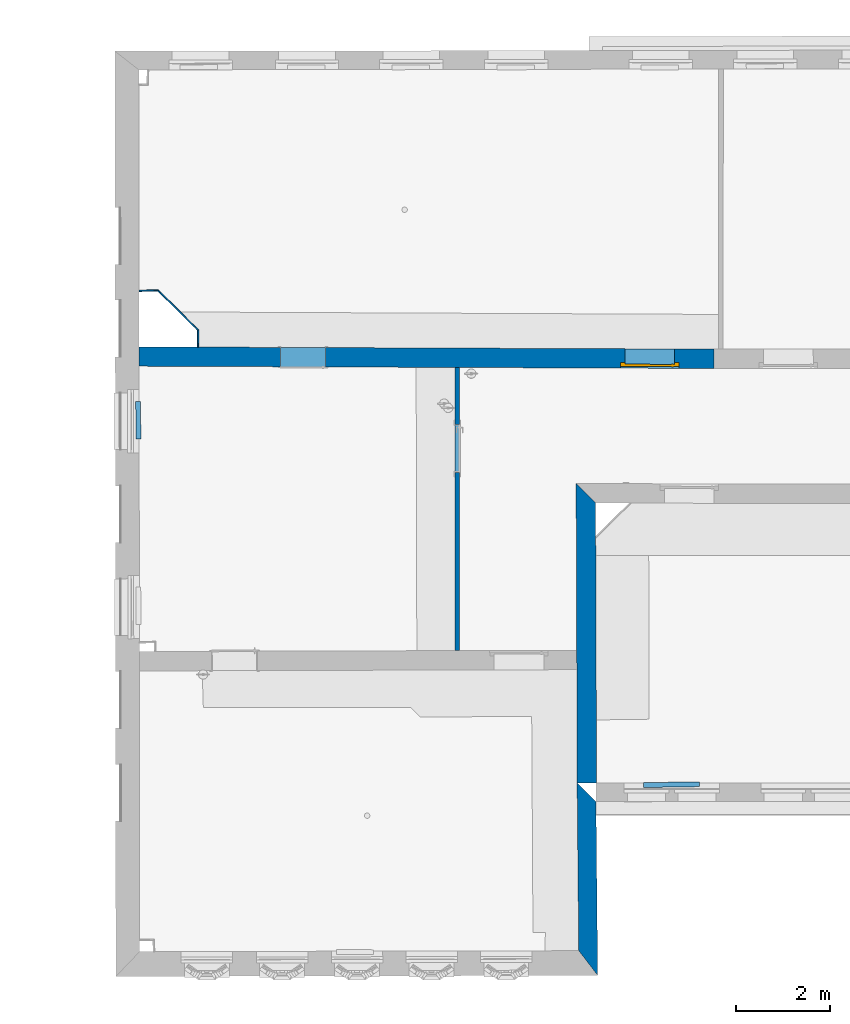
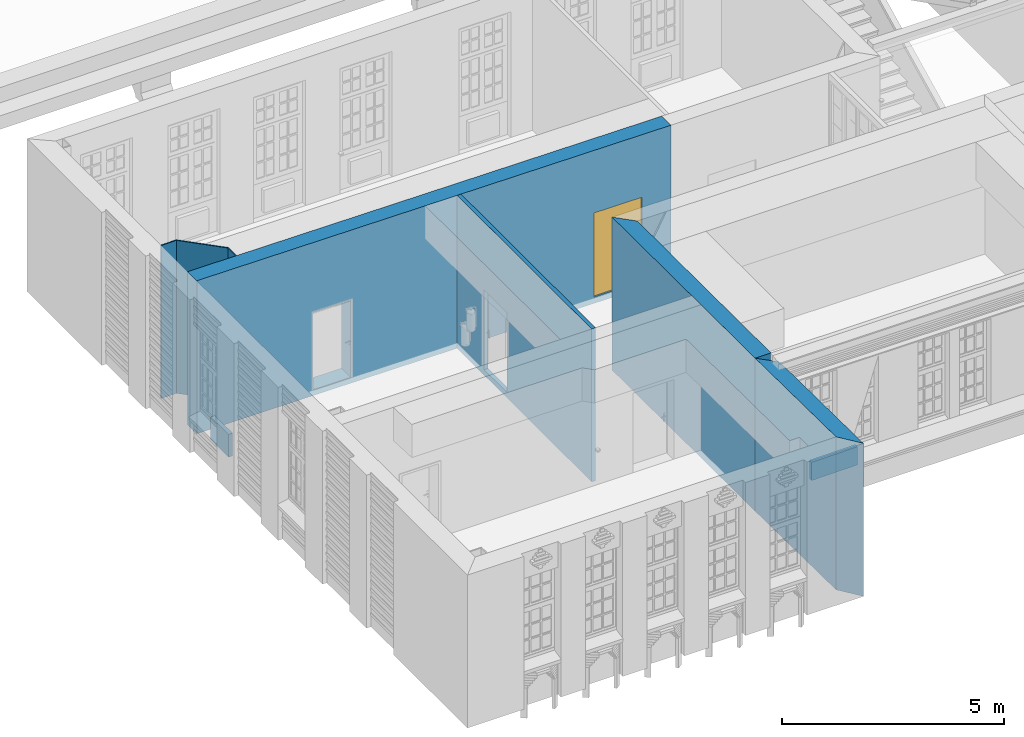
# One storey, part 11 of 90: 9 walls, 1 door, 3 openings.
"""IFC2X3 building model written with IfcOpenShell, lengths in metres."""

from ifc_helpers import new_model, entity, si_unit, converted_unit, derived_unit, money_unit, direction, frame, origin_with_axes, origin_2d_with_axis, place, context, subcontext, project, spatial, polyline, rectangle, outline, extrude, faceted_brep, source, transform, mapped, material, layer, layer_set, layer_usage, type_object, element, fill, save


model = new_model("IFC2X3")

# Units and contexts
model_context = context("Model", 3, precision=1e-05, world=origin_with_axes(), true_north=direction((0.0, 1.0)))
body_context = subcontext(model_context, "Body", "Model", "MODEL_VIEW")
ifc_project = project(units=[si_unit("LENGTHUNIT", "METRE"), si_unit("AREAUNIT", "SQUARE_METRE"), si_unit("VOLUMEUNIT", "CUBIC_METRE"), converted_unit("PLANEANGLEUNIT", "DEGREE", entity("IfcPlaneAngleMeasure", 0.0174532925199), si_unit("PLANEANGLEUNIT", "RADIAN"), dimensions=[0, 0, 0, 0, 0, 0, 0]), money_unit("EUR"), converted_unit("TIMEUNIT", "Year", entity("IfcTimeMeasure", 31556926.0), si_unit("TIMEUNIT", "SECOND"), dimensions=[0, 0, 1, 0, 0, 0, 0]), si_unit("MASSUNIT", "GRAM", prefix="KILO"), si_unit("THERMODYNAMICTEMPERATUREUNIT", "DEGREE_CELSIUS"), si_unit("LUMINOUSINTENSITYUNIT", "LUMEN"), si_unit("ENERGYUNIT", "JOULE", prefix="MEGA"), derived_unit("THERMALCONDUCTANCEUNIT", [(si_unit("POWERUNIT", "WATT"), 1), (si_unit("LENGTHUNIT", "METRE"), -1), (si_unit("THERMODYNAMICTEMPERATUREUNIT", "KELVIN"), -1)]), derived_unit("SPECIFICHEATCAPACITYUNIT", [(si_unit("ENERGYUNIT", "JOULE"), 1), (si_unit("MASSUNIT", "GRAM", prefix="KILO"), -1), (si_unit("THERMODYNAMICTEMPERATUREUNIT", "KELVIN"), -1)]), derived_unit("MASSDENSITYUNIT", [(si_unit("MASSUNIT", "GRAM", prefix="KILO"), 1), (si_unit("VOLUMEUNIT", "CUBIC_METRE"), -1)])], contexts=[model_context])

# Site, building, storey
site_placement = place(None, origin_with_axes())
site = spatial("IfcSite", under=ifc_project, at=site_placement, Name="Gelände", CompositionType="ELEMENT")
building_placement = place(site_placement, origin_with_axes())
building = spatial("IfcBuilding", under=site, at=building_placement, Name="Gebäude", CompositionType="ELEMENT")
storey_placement = place(building_placement, frame((0.0, 0.0, 3.7), z_axis=(0.0, 0.0, 1.0), x_axis=(1.0, 0.0, 0.0)))
storey = spatial("IfcBuildingStorey", under=building, at=storey_placement, Name="1.OBERGESCHOSS", CompositionType="ELEMENT", Elevation=3.7)

# Walls
ifc_material_1 = material(Name="05_ALLGEMEIN - TRAGENDE BAUTEILE")
ifc_layer_1 = layer(ifc_material_1, 0.4, ventilated="UNKNOWN")
ifc_layer_set_1 = layer_set([ifc_layer_1], Name="05_ALLGEMEIN - TRAGENDE BAUTEILE 0.4")
ifc_layer_usage_1 = layer_usage(ifc_layer_set_1, "AXIS2", "NEGATIVE", 0.4)
wall_type_1 = type_object("IfcWallType", Name="05_ALLGEMEIN - TRAGENDE BAUTEILE 400", PredefinedType="ELEMENTEDWALL")
wall_1_placement = place(storey_placement, frame((-17.7552910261, 6.28208154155, -0.1), z_axis=(0.0, 0.0, 1.0), x_axis=(-0.00971979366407, 0.99995276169, 0.0)))
element("IfcWallStandardCase", 1, at=wall_1_placement, inside=storey, type_object=wall_type_1, material=ifc_layer_usage_1, Name="Wand-029", ObjectType="ELEMENTEDWALL", context=body_context, shape_type="SweptSolid", body=[
    extrude(outline(polyline([(0.0, 0.0), (3.71206663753, 0.0), (4.11594323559, 0.4), (0.533052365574, 0.4), (0.0, 0.0)])), origin_with_axes(), (0.0, 0.0, 1.0), 4.2),
])
ifc_material_2 = material(Name="43_Gipskarton")
ifc_layer_2 = layer(ifc_material_2, 0.03, ventilated="UNKNOWN")
ifc_layer_set_2 = layer_set([ifc_layer_2], Name="43_Gipskarton 0.03")
ifc_layer_usage_2 = layer_usage(ifc_layer_set_2, "AXIS2", "NEGATIVE", 0.03)
wall_type_2 = type_object("IfcWallType", Name="43_Gipskarton 30", PredefinedType="ELEMENTEDWALL")
wall_2_placement = place(storey_placement, frame((-26.2841392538, 19.2929621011, -0.1), z_axis=(0.0, 0.0, 1.0), x_axis=(0.0115664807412, 0.999933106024, 0.0)))
element("IfcWallStandardCase", 2, at=wall_2_placement, inside=storey, type_object=wall_type_2, material=ifc_layer_usage_2, Name="Wand-041", ObjectType="ELEMENTEDWALL", context=body_context, shape_type="SweptSolid", body=[
    extrude(outline(polyline([(0.414627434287, 0.0), (0.781797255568, 0.0), (0.76904047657, 0.03), (0.414400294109, 0.03), (0.414627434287, 0.0)])), origin_with_axes(), (0.0, 0.0, 1.0), 4.2),
])
ifc_layer_usage_3 = layer_usage(ifc_layer_set_2, "AXIS2", "NEGATIVE", 0.03)
wall_3_placement = place(storey_placement, frame((-26.2750966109, 20.0747070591, -0.1), z_axis=(0.0, 0.0, 1.0), x_axis=(-0.712150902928, 0.70202641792, 0.0)))
element("IfcWallStandardCase", 3, at=wall_3_placement, inside=storey, type_object=wall_type_2, material=ifc_layer_usage_3, Name="Wand-042", ObjectType="ELEMENTEDWALL", context=body_context, shape_type="SweptSolid", body=[
    extrude(outline(polyline([(0.0, 0.0), (1.22084473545, 0.0), (1.20815643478, 0.03), (0.0127567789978, 0.03), (0.0, 0.0)])), origin_with_axes(), (0.0, 0.0, 1.0), 4.2),
])
ifc_layer_usage_4 = layer_usage(ifc_layer_set_2, "AXIS2", "NEGATIVE", 0.03)
wall_4_placement = place(storey_placement, frame((-27.1445222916, 20.9317723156, -0.1), z_axis=(0.0, 0.0, 1.0), x_axis=(-0.999757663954, -0.0220139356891, 0.0)))
element("IfcWallStandardCase", 4, at=wall_4_placement, inside=storey, type_object=wall_type_2, material=ifc_layer_usage_4, Name="Wand-043", ObjectType="ELEMENTEDWALL", context=body_context, shape_type="SweptSolid", body=[
    extrude(outline(polyline([(0.0, 0.0), (0.409529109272, 0.0), (0.410161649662, 0.03), (0.0126883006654, 0.03), (0.0, 0.0)])), origin_with_axes(), (0.0, 0.0, 1.0), 4.2),
])
ifc_material_3 = material(Name="01_ALLGEMEIN - BAUTEIL")
ifc_layer_3 = layer(ifc_material_3, 0.105, ventilated="UNKNOWN")
ifc_layer_set_3 = layer_set([ifc_layer_3], Name="01_ALLGEMEIN - BAUTEIL 0.105")
ifc_layer_usage_5 = layer_usage(ifc_layer_set_3, "AXIS2", "NEGATIVE", 0.105)
wall_type_3 = type_object("IfcWallType", Name="01_ALLGEMEIN - BAUTEIL 105", PredefinedType="ELEMENTEDWALL")
wall_5_placement = place(storey_placement, frame((-27.5158140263, 17.7450611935, 0.222143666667), z_axis=(0.0, 0.0, 1.0), x_axis=(-0.00559368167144, 0.99998435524, 0.0)))
element("IfcWallStandardCase", 5, at=wall_5_placement, inside=storey, type_object=wall_type_3, material=ifc_layer_usage_5, Name="Wand-035", ObjectType="ELEMENTEDWALL", context=body_context, shape_type="SweptSolid", body=[
    extrude(outline(polyline([(0.0, 0.0), (0.798963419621, 0.0), (0.798963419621, 0.105), (0.0, 0.105), (0.0, 0.0)])), origin_with_axes(), (0.0, 0.0, 1.0), 0.626381),
])
ifc_layer_usage_6 = layer_usage(ifc_layer_set_3, "AXIS2", "NEGATIVE", 0.0)
wall_6_placement = place(storey_placement, frame((-16.7819560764, 10.4016791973, 0.300904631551), z_axis=(0.0, 0.0, 1.0), x_axis=(0.999879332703, 0.0155344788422, 0.0)))
element("IfcWallStandardCase", 6, at=wall_6_placement, inside=storey, type_object=wall_type_3, material=ifc_layer_usage_6, Name="Wand-037", ObjectType="ELEMENTEDWALL", context=body_context, shape_type="SweptSolid", body=[
    extrude(outline(polyline([(0.0, -0.105), (1.1980319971, -0.105), (1.1980319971, 0.0), (0.0, 0.0), (0.0, -0.105)])), origin_with_axes(), (0.0, 0.0, 1.0), 0.501014),
])

# Wall, opening
ifc_layer_4 = layer(ifc_material_2, 0.1, ventilated="UNKNOWN")
ifc_layer_set_4 = layer_set([ifc_layer_4], Name="43_Gipskarton 0.1")
ifc_layer_usage_7 = layer_usage(ifc_layer_set_4, "AXIS2", "NEGATIVE", 0.0)
wall_type_4 = type_object("IfcWallType", Name="43_Gipskarton 100", PredefinedType="ELEMENTEDWALL")
wall_7_placement = place(storey_placement, frame((-20.7053908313, 19.2706718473, -0.1), z_axis=(0.0, 0.0, 1.0), x_axis=(-0.000167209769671, -0.99999998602, 0.0)))
wall_7 = element("IfcWallStandardCase", 7, at=wall_7_placement, inside=storey, type_object=wall_type_4, material=ifc_layer_usage_7, Name="Wand-039", ObjectType="ELEMENTEDWALL", context=body_context, shape_type="SweptSolid", body=[
    extrude(outline(polyline([(-0.000382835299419, -0.1), (6.04848915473, -0.1), (6.04818742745, 0.0), (0.0, 0.0), (-0.000382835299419, -0.1)])), origin_with_axes(), (0.0, 0.0, 1.0), 4.2),
])
opening_1_placement = place(wall_7_placement, frame((1.72813684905, 0.0, 0.15), z_axis=(0.0, 0.0, 1.0), x_axis=(1.0, 0.0, 0.0)))
element("IfcOpeningElement", 8, at=opening_1_placement, cuts=wall_7, Name="Tür-022", context=body_context, shape_type="SweptSolid", body=[
    extrude(rectangle(XDim=1.02646512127, YDim=2.188924, at=origin_2d_with_axis()), frame((0.0, -0.1, 1.094462), z_axis=(0.0, 1.0, 0.0), x_axis=(1.0, 0.0, 0.0)), (0.0, 0.0, 1.0), 0.3),
])

# Wall, openings, door
ifc_layer_5 = layer(ifc_material_1, 0.414615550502, ventilated="UNKNOWN")
ifc_layer_set_5 = layer_set([ifc_layer_5], Name="05_ALLGEMEIN - TRAGENDE BAUTEILE 0.414616")
ifc_layer_usage_8 = layer_usage(ifc_layer_set_5, "AXIS2", "NEGATIVE", 0.0)
wall_type_5 = type_object("IfcWallType", Name="05_ALLGEMEIN - TRAGENDE BAUTEILE 415", PredefinedType="ELEMENTEDWALL")
wall_8_placement = place(storey_placement, frame((-15.2663107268, 19.2489396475, -0.1), z_axis=(0.0, 0.0, 1.0), x_axis=(-0.999992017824, 0.00399553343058, 0.0)))
wall_8 = element("IfcWallStandardCase", 9, at=wall_8_placement, inside=storey, type_object=wall_type_5, material=ifc_layer_usage_8, Name="Wand-038", ObjectType="ELEMENTEDWALL", context=body_context, shape_type="SweptSolid", body=[
    extrude(outline(polyline([(0.000893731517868, -0.414615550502), (12.2882656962, -0.414615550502), (12.2862217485, 0.0), (0.0, 0.0), (0.000893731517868, -0.414615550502)])), origin_with_axes(), (0.0, 0.0, 1.0), 4.2),
])
opening_2_placement = place(wall_8_placement, frame((1.37800288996, 0.0, 0.177598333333), z_axis=(0.0, 0.0, 1.0), x_axis=(1.0, 0.0, 0.0)))
opening_2 = element("IfcOpeningElement", 10, at=opening_2_placement, cuts=wall_8, Name="Tür-022", context=body_context, shape_type="SweptSolid", body=[
    extrude(rectangle(XDim=1.06465358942, YDim=2.217251, at=origin_2d_with_axis()), frame((0.0, -0.125636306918, 1.1086255), z_axis=(0.0, 1.0, 0.0), x_axis=(1.0, 0.0, 0.0)), (0.0, 0.0, -1.0), 0.703594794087),
    extrude(rectangle(XDim=1.24465358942, YDim=2.307251, at=origin_2d_with_axis()), frame((0.0, -0.0356363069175, 1.1536255), z_axis=(0.0, -1.0, 0.0), x_axis=(1.0, 0.0, 0.0)), (0.0, 0.0, 1.0), 0.09),
    extrude(rectangle(XDim=1.24465358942, YDim=2.307251, at=origin_2d_with_axis()), frame((0.0, -0.0356363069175, 1.1536255), z_axis=(0.0, -1.0, 0.0), x_axis=(1.0, 0.0, 0.0)), (0.0, 0.0, -1.0), 0.45025185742),
])
opening_3_placement = place(wall_8_placement, frame((8.78707058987, 0.0, 0.165365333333), z_axis=(0.0, 0.0, 1.0), x_axis=(1.0, 0.0, 0.0)))
element("IfcOpeningElement", 11, at=opening_3_placement, cuts=wall_8, Name="Tür-022", context=body_context, shape_type="SweptSolid", body=[
    extrude(rectangle(XDim=0.965501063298, YDim=2.106896, at=origin_2d_with_axis()), frame((0.0, -0.414615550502, 1.053448), z_axis=(0.0, 1.0, 0.0), x_axis=(1.0, 0.0, 0.0)), (0.0, 0.0, 1.0), 1.24384665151),
])
door_style = type_object("IfcDoorStyle", Name="Blockrahmentür 1-Fl 25", ConstructionType="NOTDEFINED", OperationType="SINGLE_SWING_RIGHT", ParameterTakesPrecedence=False, Sizeable=False)
shared_shape = source(origin_with_axes(), body_context, "Body", "Brep", [
    faceted_brep([(0.622326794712, -0.09, 0.0), (0.622326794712, -0.05, 0.0), (0.622326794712, -0.05, 2.307251), (0.622326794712, -0.09, 2.307251), (0.532326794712, -0.09, 0.0), (0.532326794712, -0.05, 0.0), (0.532326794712, -0.05, 2.217251), (0.1121, -0.05, 2.217251), (0.0001, -0.05, 2.217251), (-0.532326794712, -0.05, 2.217251), (-0.532326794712, -0.05, 0.0), (-0.622326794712, -0.05, 0.0), (-0.622326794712, -0.05, 2.307251), (-0.622326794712, -0.09, 2.307251), (-0.622326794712, -0.09, 0.0), (-0.532326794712, -0.09, 0.0), (-0.532326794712, -0.09, 2.217251), (0.0001, -0.09, 2.217251), (0.1121, -0.09, 2.217251), (0.532326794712, -0.09, 2.217251)], [[[0, 1, 2, 3]], [[4, 5, 1, 0]], [[1, 5, 6, 7, 8, 9, 10, 11, 12, 2]], [[3, 2, 12, 13]], [[0, 3, 13, 14, 15, 16, 17, 18, 19, 4]], [[19, 6, 5, 4]], [[18, 7, 6, 19]], [[17, 8, 7, 18]], [[16, 9, 8, 17]], [[15, 10, 9, 16]], [[14, 11, 10, 15]], [[13, 12, 11, 14]]]),
    faceted_brep([(0.622326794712, -0.05, 0.0), (0.622326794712, 0.0, 0.0), (0.622326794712, 0.0, 2.307251), (0.622326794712, -0.05, 2.307251), (0.544326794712, -0.05, 0.0), (0.544326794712, 0.0, 0.0), (0.544326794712, 0.0, 2.229251), (0.1001, 0.0, 2.229251), (0.0121, 0.0, 2.229251), (-0.544326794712, 0.0, 2.229251), (-0.544326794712, 0.0, 0.0), (-0.622326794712, 0.0, 0.0), (-0.622326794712, 0.0, 2.307251), (-0.622326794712, -0.05, 2.307251), (-0.622326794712, -0.05, 0.0), (-0.544326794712, -0.05, 0.0), (-0.544326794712, -0.05, 2.229251), (0.0121, -0.05, 2.229251), (0.1001, -0.05, 2.229251), (0.544326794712, -0.05, 2.229251)], [[[0, 1, 2, 3]], [[4, 5, 1, 0]], [[1, 5, 6, 7, 8, 9, 10, 11, 12, 2]], [[3, 2, 12, 13]], [[0, 3, 13, 14, 15, 16, 17, 18, 19, 4]], [[19, 6, 5, 4]], [[18, 7, 6, 19]], [[17, 8, 7, 18]], [[16, 9, 8, 17]], [[15, 10, 9, 16]], [[14, 11, 10, 15]], [[13, 12, 11, 14]]]),
    faceted_brep([(0.544326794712, -0.002, 0.0), (-0.544326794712, -0.002, 0.0), (-0.544326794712, -0.002, 2.229251), (0.544326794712, -0.002, 2.229251), (0.544326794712, -0.05, 0.0), (-0.544326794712, -0.05, 0.0), (-0.544326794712, -0.05, 2.229251), (0.544326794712, -0.05, 2.229251)], [[[0, 1, 2, 3]], [[1, 0, 4, 5]], [[2, 1, 5, 6]], [[3, 2, 6, 7]], [[0, 3, 7, 4]], [[5, 4, 7, 6]]]),
    faceted_brep([(-0.48902907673, -0.09, 1.05647213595), (-0.484326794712, -0.09, 1.058), (-0.484326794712, -0.07, 1.058), (-0.48902907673, -0.07, 1.05647213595), (-0.491935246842, -0.09, 1.05247213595), (-0.491935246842, -0.09, 1.04752786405), (-0.48902907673, -0.09, 1.04352786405), (-0.484326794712, -0.09, 1.042), (-0.479624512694, -0.09, 1.04352786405), (-0.476718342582, -0.09, 1.04752786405), (-0.476718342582, -0.09, 1.05247213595), (-0.479624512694, -0.09, 1.05647213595), (-0.479624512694, -0.07, 1.05647213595), (-0.484326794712, -0.068, 1.06), (-0.490204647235, -0.068, 1.05809016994), (-0.491935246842, -0.07, 1.05247213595), (-0.491935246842, -0.07, 1.04752786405), (-0.48902907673, -0.07, 1.04352786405), (-0.484326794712, -0.07, 1.042), (-0.479624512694, -0.07, 1.04352786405), (-0.476718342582, -0.07, 1.04752786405), (-0.476718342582, -0.07, 1.05247213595), (-0.478448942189, -0.068, 1.05809016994), (-0.484326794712, -0.06, 1.06), (-0.490204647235, -0.06, 1.05809016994), (-0.493837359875, -0.068, 1.05309016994), (-0.493837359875, -0.068, 1.04690983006), (-0.490204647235, -0.068, 1.04190983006), (-0.484326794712, -0.068, 1.04), (-0.478448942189, -0.068, 1.04190983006), (-0.474816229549, -0.068, 1.04690983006), (-0.474816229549, -0.068, 1.05309016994), (-0.478448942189, -0.06, 1.05809016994), (-0.474816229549, -0.06, 1.05309016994), (-0.474816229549, -0.06, 1.04690983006), (-0.478448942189, -0.06, 1.04190983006), (-0.484326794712, -0.06, 1.04), (-0.490204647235, -0.06, 1.04190983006), (-0.493837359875, -0.06, 1.04690983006), (-0.493837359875, -0.06, 1.05309016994)], [[[0, 1, 2, 3]], [[1, 0, 4, 5, 6, 7, 8, 9, 10, 11]], [[1, 11, 12, 2]], [[3, 2, 13, 14]], [[4, 0, 3, 15]], [[5, 4, 15, 16]], [[6, 5, 16, 17]], [[7, 6, 17, 18]], [[8, 7, 18, 19]], [[9, 8, 19, 20]], [[10, 9, 20, 21]], [[11, 10, 21, 12]], [[2, 12, 22, 13]], [[14, 13, 23, 24]], [[15, 3, 14, 25]], [[16, 15, 25, 26]], [[17, 16, 26, 27]], [[18, 17, 27, 28]], [[19, 18, 28, 29]], [[20, 19, 29, 30]], [[21, 20, 30, 31]], [[12, 21, 31, 22]], [[13, 22, 32, 23]], [[23, 32, 33, 34, 35, 36, 37, 38, 39, 24]], [[25, 14, 24, 39]], [[26, 25, 39, 38]], [[27, 26, 38, 37]], [[28, 27, 37, 36]], [[29, 28, 36, 35]], [[30, 29, 35, 34]], [[31, 30, 34, 33]], [[22, 31, 33, 32]]]),
    faceted_brep([(-0.472138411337, -0.06, 1.11759695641), (-0.479883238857, -0.06, 1.12195567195), (-0.488770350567, -0.06, 1.12195567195), (-0.496515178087, -0.06, 1.11759695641), (-0.501126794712, -0.06, 1.11), (-0.506826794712, -0.06, 1.11), (-0.506826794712, -0.06, 0.89), (-0.501126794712, -0.06, 0.89), (-0.496515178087, -0.06, 0.882403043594), (-0.488770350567, -0.06, 0.878044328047), (-0.479883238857, -0.06, 0.878044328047), (-0.472138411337, -0.06, 0.882403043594), (-0.467526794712, -0.06, 0.89), (-0.461826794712, -0.06, 0.89), (-0.461826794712, -0.06, 1.11), (-0.467526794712, -0.06, 1.11), (-0.484326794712, -0.06, 0.967425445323), (-0.478951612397, -0.06, 0.965143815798), (-0.476858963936, -0.06, 0.959692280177), (-0.479326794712, -0.06, 0.9544), (-0.479326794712, -0.06, 0.9375), (-0.480791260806, -0.06, 0.933964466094), (-0.484326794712, -0.06, 0.9325), (-0.487862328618, -0.06, 0.933964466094), (-0.489326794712, -0.06, 0.9375), (-0.489326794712, -0.06, 0.9544), (-0.491794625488, -0.06, 0.959692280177), (-0.489701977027, -0.06, 0.965143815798), (-0.472138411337, -0.05, 1.11759695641), (-0.479883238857, -0.05, 1.12195567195), (-0.488770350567, -0.05, 1.12195567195), (-0.496515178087, -0.05, 1.11759695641), (-0.501126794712, -0.05, 1.11), (-0.506826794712, -0.05, 1.11), (-0.506826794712, -0.05, 0.89), (-0.501126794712, -0.05, 0.89), (-0.496515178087, -0.05, 0.882403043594), (-0.488770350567, -0.05, 0.878044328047), (-0.479883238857, -0.05, 0.878044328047), (-0.472138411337, -0.05, 0.882403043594), (-0.467526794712, -0.05, 0.89), (-0.461826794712, -0.05, 0.89), (-0.461826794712, -0.05, 1.11), (-0.467526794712, -0.05, 1.11), (-0.484326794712, -0.05, 0.967425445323), (-0.478951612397, -0.05, 0.965143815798), (-0.476858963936, -0.05, 0.959692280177), (-0.479326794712, -0.05, 0.9544), (-0.479326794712, -0.05, 0.9375), (-0.480791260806, -0.05, 0.933964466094), (-0.484326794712, -0.05, 0.9325), (-0.487862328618, -0.05, 0.933964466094), (-0.489326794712, -0.05, 0.9375), (-0.489326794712, -0.05, 0.9544), (-0.491794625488, -0.05, 0.959692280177), (-0.489701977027, -0.05, 0.965143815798)], [[[0, 1, 2, 3, 4, 5, 6, 7, 8, 9, 10, 11, 12, 13, 14, 15], [16, 17, 18, 19, 20, 21, 22, 23, 24, 25, 26, 27]], [[1, 0, 28, 29]], [[2, 1, 29, 30]], [[3, 2, 30, 31]], [[4, 3, 31, 32]], [[5, 4, 32, 33]], [[6, 5, 33, 34]], [[7, 6, 34, 35]], [[8, 7, 35, 36]], [[9, 8, 36, 37]], [[10, 9, 37, 38]], [[11, 10, 38, 39]], [[12, 11, 39, 40]], [[13, 12, 40, 41]], [[14, 13, 41, 42]], [[15, 14, 42, 43]], [[0, 15, 43, 28]], [[17, 16, 44, 45]], [[18, 17, 45, 46]], [[19, 18, 46, 47]], [[19, 47, 48, 20]], [[20, 48, 49, 21]], [[21, 49, 50, 22]], [[22, 50, 51, 23]], [[23, 51, 52, 24]], [[53, 25, 24, 52]], [[26, 25, 53, 54]], [[27, 26, 54, 55]], [[16, 27, 55, 44]], [[40, 39, 38, 37, 36, 35, 34, 33, 32, 31, 30, 29, 28, 43, 42, 41], [54, 53, 52, 51, 50, 49, 48, 47, 46, 45, 44, 55]]]),
    faceted_brep([(-0.370073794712, -0.09, 1.057158), (-0.370073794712, -0.105, 1.057158), (-0.370072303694, -0.105, 1.05719388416), (-0.370072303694, -0.09, 1.05719388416), (-0.397101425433, -0.09, 1.06432652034), (-0.397101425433, -0.105, 1.06432652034), (-0.424929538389, -0.105, 1.06706086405), (-0.452835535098, -0.105, 1.06529002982), (-0.480094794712, -0.105, 1.05906), (-0.486497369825, -0.105, 1.05976125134), (-0.491999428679, -0.105, 1.05641280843), (-0.494318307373, -0.105, 1.05040385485), (-0.492491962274, -0.105, 1.04422735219), (-0.487278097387, -0.105, 1.04044577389), (-0.480839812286, -0.105, 1.04062800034), (-0.475848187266, -0.105, 1.04469843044), (-0.475868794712, -0.105, 1.044666), (-0.450580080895, -0.105, 1.05019878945), (-0.424737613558, -0.105, 1.05171460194), (-0.398975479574, -0.105, 1.04917624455), (-0.373925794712, -0.105, 1.042646), (-0.368382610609, -0.105, 1.04356849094), (-0.365021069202, -0.105, 1.04807159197), (-0.365712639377, -0.105, 1.05364829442), (-0.365712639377, -0.09, 1.05364829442), (-0.365021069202, -0.09, 1.04807159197), (-0.368382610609, -0.09, 1.04356849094), (-0.373925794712, -0.09, 1.042646), (-0.398975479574, -0.09, 1.04917624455), (-0.424737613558, -0.09, 1.05171460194), (-0.450580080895, -0.09, 1.05019878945), (-0.475868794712, -0.09, 1.044666), (-0.475848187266, -0.09, 1.04469843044), (-0.480839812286, -0.09, 1.04062800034), (-0.487278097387, -0.09, 1.04044577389), (-0.492491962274, -0.09, 1.04422735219), (-0.494318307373, -0.09, 1.05040385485), (-0.491999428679, -0.09, 1.05641280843), (-0.486497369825, -0.09, 1.05976125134), (-0.480094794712, -0.09, 1.05906), (-0.452835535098, -0.09, 1.06529002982), (-0.424929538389, -0.09, 1.06706086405)], [[[0, 1, 2, 3]], [[4, 5, 1, 0]], [[1, 5, 6, 7, 8, 9, 10, 11, 12, 13, 14, 15, 16, 17, 18, 19, 20, 21, 22, 23, 2]], [[3, 2, 23, 24]], [[0, 3, 24, 25, 26, 27, 28, 29, 30, 31, 32, 33, 34, 35, 36, 37, 38, 39, 40, 41, 4]], [[41, 6, 5, 4]], [[40, 7, 6, 41]], [[39, 8, 7, 40]], [[38, 9, 8, 39]], [[37, 10, 9, 38]], [[36, 11, 10, 37]], [[35, 12, 11, 36]], [[34, 13, 12, 35]], [[33, 14, 13, 34]], [[32, 15, 14, 33]], [[31, 16, 15, 32]], [[30, 17, 16, 31]], [[29, 18, 17, 30]], [[28, 19, 18, 29]], [[27, 20, 19, 28]], [[26, 21, 20, 27]], [[25, 22, 21, 26]], [[24, 23, 22, 25]]]),
    faceted_brep([(-0.48902907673, 0.038, 1.05647213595), (-0.48902907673, 0.018, 1.05647213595), (-0.484326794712, 0.018, 1.058), (-0.484326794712, 0.038, 1.058), (-0.491935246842, 0.038, 1.05247213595), (-0.491935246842, 0.018, 1.05247213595), (-0.490204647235, 0.016, 1.05809016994), (-0.484326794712, 0.016, 1.06), (-0.479624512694, 0.018, 1.05647213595), (-0.479624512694, 0.038, 1.05647213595), (-0.476718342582, 0.038, 1.05247213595), (-0.476718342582, 0.038, 1.04752786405), (-0.479624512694, 0.038, 1.04352786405), (-0.484326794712, 0.038, 1.042), (-0.48902907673, 0.038, 1.04352786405), (-0.491935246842, 0.038, 1.04752786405), (-0.491935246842, 0.018, 1.04752786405), (-0.493837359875, 0.016, 1.05309016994), (-0.490204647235, 0.008, 1.05809016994), (-0.484326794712, 0.008, 1.06), (-0.478448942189, 0.016, 1.05809016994), (-0.476718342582, 0.018, 1.05247213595), (-0.476718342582, 0.018, 1.04752786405), (-0.479624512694, 0.018, 1.04352786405), (-0.484326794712, 0.018, 1.042), (-0.48902907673, 0.018, 1.04352786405), (-0.493837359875, 0.016, 1.04690983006), (-0.493837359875, 0.008, 1.05309016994), (-0.493837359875, 0.008, 1.04690983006), (-0.490204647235, 0.008, 1.04190983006), (-0.484326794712, 0.008, 1.04), (-0.478448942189, 0.008, 1.04190983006), (-0.474816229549, 0.008, 1.04690983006), (-0.474816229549, 0.008, 1.05309016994), (-0.478448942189, 0.008, 1.05809016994), (-0.474816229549, 0.016, 1.05309016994), (-0.474816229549, 0.016, 1.04690983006), (-0.478448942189, 0.016, 1.04190983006), (-0.484326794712, 0.016, 1.04), (-0.490204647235, 0.016, 1.04190983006)], [[[0, 1, 2, 3]], [[4, 5, 1, 0]], [[1, 6, 7, 2]], [[3, 2, 8, 9]], [[3, 9, 10, 11, 12, 13, 14, 15, 4, 0]], [[15, 16, 5, 4]], [[5, 17, 6, 1]], [[6, 18, 19, 7]], [[2, 7, 20, 8]], [[9, 8, 21, 10]], [[10, 21, 22, 11]], [[11, 22, 23, 12]], [[12, 23, 24, 13]], [[13, 24, 25, 14]], [[14, 25, 16, 15]], [[16, 26, 17, 5]], [[17, 27, 18, 6]], [[19, 18, 27, 28, 29, 30, 31, 32, 33, 34]], [[7, 19, 34, 20]], [[8, 20, 35, 21]], [[21, 35, 36, 22]], [[22, 36, 37, 23]], [[23, 37, 38, 24]], [[24, 38, 39, 25]], [[25, 39, 26, 16]], [[26, 28, 27, 17]], [[39, 29, 28, 26]], [[38, 30, 29, 39]], [[37, 31, 30, 38]], [[36, 32, 31, 37]], [[35, 33, 32, 36]], [[20, 34, 33, 35]]]),
    faceted_brep([(-0.472138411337, -0.002, 1.11759695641), (-0.479883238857, -0.002, 1.12195567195), (-0.488770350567, -0.002, 1.12195567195), (-0.496515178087, -0.002, 1.11759695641), (-0.501126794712, -0.002, 1.11), (-0.506826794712, -0.002, 1.11), (-0.506826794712, -0.002, 0.89), (-0.501126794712, -0.002, 0.89), (-0.496515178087, -0.002, 0.882403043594), (-0.488770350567, -0.002, 0.878044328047), (-0.479883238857, -0.002, 0.878044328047), (-0.472138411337, -0.002, 0.882403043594), (-0.467526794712, -0.002, 0.89), (-0.461826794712, -0.002, 0.89), (-0.461826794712, -0.002, 1.11), (-0.467526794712, -0.002, 1.11), (-0.484326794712, -0.002, 0.967425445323), (-0.478951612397, -0.002, 0.965143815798), (-0.476858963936, -0.002, 0.959692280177), (-0.479326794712, -0.002, 0.9544), (-0.479326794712, -0.002, 0.9375), (-0.480791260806, -0.002, 0.933964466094), (-0.484326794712, -0.002, 0.9325), (-0.487862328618, -0.002, 0.933964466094), (-0.489326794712, -0.002, 0.9375), (-0.489326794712, -0.002, 0.9544), (-0.491794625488, -0.002, 0.959692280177), (-0.489701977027, -0.002, 0.965143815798), (-0.479883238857, 0.008, 1.12195567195), (-0.472138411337, 0.008, 1.11759695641), (-0.488770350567, 0.008, 1.12195567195), (-0.496515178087, 0.008, 1.11759695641), (-0.501126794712, 0.008, 1.11), (-0.506826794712, 0.008, 1.11), (-0.506826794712, 0.008, 0.89), (-0.501126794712, 0.008, 0.89), (-0.496515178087, 0.008, 0.882403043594), (-0.488770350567, 0.008, 0.878044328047), (-0.479883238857, 0.008, 0.878044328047), (-0.472138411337, 0.008, 0.882403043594), (-0.467526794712, 0.008, 0.89), (-0.461826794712, 0.008, 0.89), (-0.461826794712, 0.008, 1.11), (-0.467526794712, 0.008, 1.11), (-0.484326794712, 0.008, 0.967425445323), (-0.478951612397, 0.008, 0.965143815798), (-0.476858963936, 0.008, 0.959692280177), (-0.479326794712, 0.008, 0.9544), (-0.479326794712, 0.008, 0.9375), (-0.480791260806, 0.008, 0.933964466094), (-0.484326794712, 0.008, 0.9325), (-0.487862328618, 0.008, 0.933964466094), (-0.489326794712, 0.008, 0.9375), (-0.489326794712, 0.008, 0.9544), (-0.491794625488, 0.008, 0.959692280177), (-0.489701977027, 0.008, 0.965143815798)], [[[0, 1, 2, 3, 4, 5, 6, 7, 8, 9, 10, 11, 12, 13, 14, 15], [16, 17, 18, 19, 20, 21, 22, 23, 24, 25, 26, 27]], [[28, 1, 0, 29]], [[30, 2, 1, 28]], [[31, 3, 2, 30]], [[32, 4, 3, 31]], [[33, 5, 4, 32]], [[34, 6, 5, 33]], [[35, 7, 6, 34]], [[36, 8, 7, 35]], [[37, 9, 8, 36]], [[38, 10, 9, 37]], [[39, 11, 10, 38]], [[40, 12, 11, 39]], [[41, 13, 12, 40]], [[42, 14, 13, 41]], [[43, 15, 14, 42]], [[29, 0, 15, 43]], [[17, 16, 44, 45]], [[18, 17, 45, 46]], [[19, 18, 46, 47]], [[19, 47, 48, 20]], [[20, 48, 49, 21]], [[21, 49, 50, 22]], [[22, 50, 51, 23]], [[23, 51, 52, 24]], [[53, 25, 24, 52]], [[26, 25, 53, 54]], [[27, 26, 54, 55]], [[16, 27, 55, 44]], [[40, 39, 38, 37, 36, 35, 34, 33, 32, 31, 30, 28, 29, 43, 42, 41], [54, 53, 52, 51, 50, 49, 48, 47, 46, 45, 44, 55]]]),
    faceted_brep([(-0.370073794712, 0.038, 1.057158), (-0.370072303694, 0.038, 1.05719388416), (-0.370072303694, 0.053, 1.05719388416), (-0.370073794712, 0.053, 1.057158), (-0.397101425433, 0.038, 1.06432652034), (-0.424929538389, 0.038, 1.06706086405), (-0.452835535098, 0.038, 1.06529002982), (-0.480094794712, 0.038, 1.05906), (-0.486497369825, 0.038, 1.05976125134), (-0.491999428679, 0.038, 1.05641280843), (-0.494318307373, 0.038, 1.05040385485), (-0.492491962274, 0.038, 1.04422735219), (-0.487278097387, 0.038, 1.04044577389), (-0.480839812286, 0.038, 1.04062800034), (-0.475848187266, 0.038, 1.04469843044), (-0.475868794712, 0.038, 1.044666), (-0.450580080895, 0.038, 1.05019878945), (-0.424737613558, 0.038, 1.05171460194), (-0.398975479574, 0.038, 1.04917624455), (-0.373925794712, 0.038, 1.042646), (-0.368382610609, 0.038, 1.04356849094), (-0.365021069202, 0.038, 1.04807159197), (-0.365712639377, 0.038, 1.05364829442), (-0.365712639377, 0.053, 1.05364829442), (-0.365021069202, 0.053, 1.04807159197), (-0.368382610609, 0.053, 1.04356849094), (-0.373925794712, 0.053, 1.042646), (-0.398975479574, 0.053, 1.04917624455), (-0.424737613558, 0.053, 1.05171460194), (-0.450580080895, 0.053, 1.05019878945), (-0.475868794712, 0.053, 1.044666), (-0.475848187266, 0.053, 1.04469843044), (-0.480839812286, 0.053, 1.04062800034), (-0.487278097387, 0.053, 1.04044577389), (-0.492491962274, 0.053, 1.04422735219), (-0.494318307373, 0.053, 1.05040385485), (-0.491999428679, 0.053, 1.05641280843), (-0.486497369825, 0.053, 1.05976125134), (-0.480094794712, 0.053, 1.05906), (-0.452835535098, 0.053, 1.06529002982), (-0.424929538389, 0.053, 1.06706086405), (-0.397101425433, 0.053, 1.06432652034)], [[[0, 1, 2, 3]], [[0, 4, 5, 6, 7, 8, 9, 10, 11, 12, 13, 14, 15, 16, 17, 18, 19, 20, 21, 22, 1]], [[1, 22, 23, 2]], [[3, 2, 23, 24, 25, 26, 27, 28, 29, 30, 31, 32, 33, 34, 35, 36, 37, 38, 39, 40, 41]], [[4, 0, 3, 41]], [[5, 4, 41, 40]], [[6, 5, 40, 39]], [[7, 6, 39, 38]], [[8, 7, 38, 37]], [[9, 8, 37, 36]], [[10, 9, 36, 35]], [[11, 10, 35, 34]], [[12, 11, 34, 33]], [[13, 12, 33, 32]], [[14, 13, 32, 31]], [[15, 14, 31, 30]], [[16, 15, 30, 29]], [[17, 16, 29, 28]], [[18, 17, 28, 27]], [[19, 18, 27, 26]], [[20, 19, 26, 25]], [[21, 20, 25, 24]], [[22, 21, 24, 23]]]),
])
door_placement = place(opening_2_placement, frame((-0.532326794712, 0.0, 0.0), z_axis=(0.0, 0.0, 1.0), x_axis=(1.0, 0.0, 0.0)))
door = element("IfcDoor", 12, at=door_placement, inside=storey, type_object=door_style, Name="Tür-022", ObjectType="NOTDEFINED", OverallHeight=2.30725, OverallWidth=1.24465, context=body_context, shape_type="MappedRepresentation", body=[
    mapped(shared_shape, transform((0.532326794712, -0.0356363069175, 0.0))),
])
fill(opening_2, door)

# Wall
ifc_layer_usage_9 = layer_usage(ifc_layer_set_5, "AXIS2", "NEGATIVE", 0.414615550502)
wall_9_placement = place(storey_placement, frame((-17.7778814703, 9.99397384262, -0.1), z_axis=(0.0, 0.0, 1.0), x_axis=(-0.00345824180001, 0.999994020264, 0.0)))
element("IfcWallStandardCase", 13, at=wall_9_placement, inside=storey, type_object=wall_type_5, material=ifc_layer_usage_9, Name="Wand-040", ObjectType="ELEMENTEDWALL", context=body_context, shape_type="SweptSolid", body=[
    extrude(outline(polyline([(0.40000228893, 0.0), (6.38125388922, 0.0), (6.79825995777, 0.414615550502), (0.401404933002, 0.414615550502), (0.40000228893, 0.0)])), origin_with_axes(), (0.0, 0.0, 1.0), 4.2),
])

save(model, "model.ifc")
